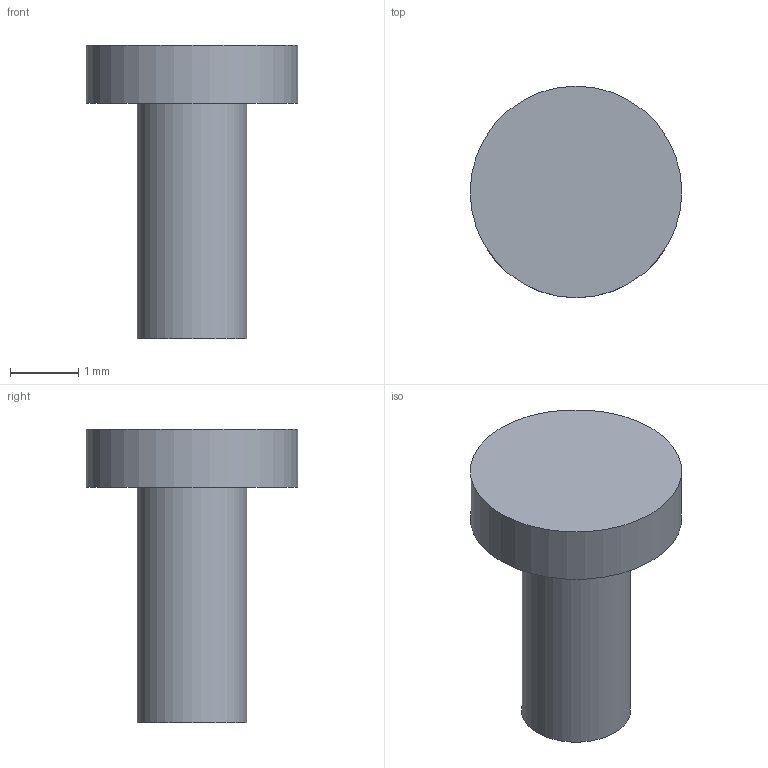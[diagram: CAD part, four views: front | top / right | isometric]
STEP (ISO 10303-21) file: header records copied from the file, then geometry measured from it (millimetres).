
FILE_DESCRIPTION(('Open CASCADE Model'),'2;1');
FILE_NAME('panel_screw_1','2026-11-19T17:25:15',('Author'),( 'Open CASCADE'),'Open CASCADE STEP processor 7.8','build123d', 'Unknown');
FILE_SCHEMA(('AUTOMOTIVE_DESIGN { 1 0 10303 214 1 1 1 1 }'));
Length unit declared in the file: millimetre
Products named in the file (1): panel_screw_1
Bounding box: 3.1 x 3.1 x 4.3 mm (x, y, z)
Volume: 13.4 mm3; surface area: 40.7 mm2
Topology: 1 solids, 1 shells, 5 faces, 6 edges, 4 vertices
Faces by surface type: plane 3, cylinder 2
Full cylindrical faces by diameter (mm): 1.6 x1, 3.1 x1
Entity records: 201 total; most frequent: DIRECTION 34, CARTESIAN_POINT 28, ORIENTED_EDGE 12, PCURVE 12, DEFINITIONAL_REPRESENTATION 12, AXIS2_PLACEMENT_3D 10, LINE 10, VECTOR 10
